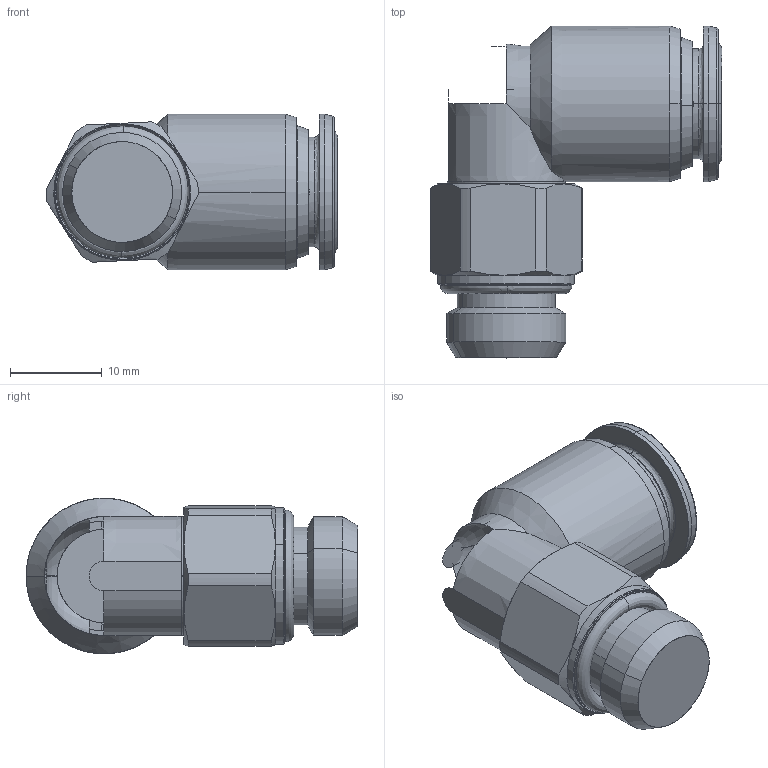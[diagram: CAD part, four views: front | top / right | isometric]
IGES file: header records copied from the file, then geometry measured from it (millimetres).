
Start section: SolidWorks IGES file using analytic representation for surfaces
Global section: file name: C:\Users\cad07\Desktop\VARI\60000X step\60115X\60115X0007.IGS; native system: SolidWorks 2020; preprocessor: SolidWorks 2020; author: cad07; date: 220520.141928; units: millimetre
Bounding box: 31.85 x 36.25 x 17 mm (x, y, z)
Surface area: 4013 mm2 (no closed solid volume)
Topology: 0 solids, 0 shells, 133 faces, 1518 edges, 1516 vertices
Faces by surface type: revolution 79, bspline 54
